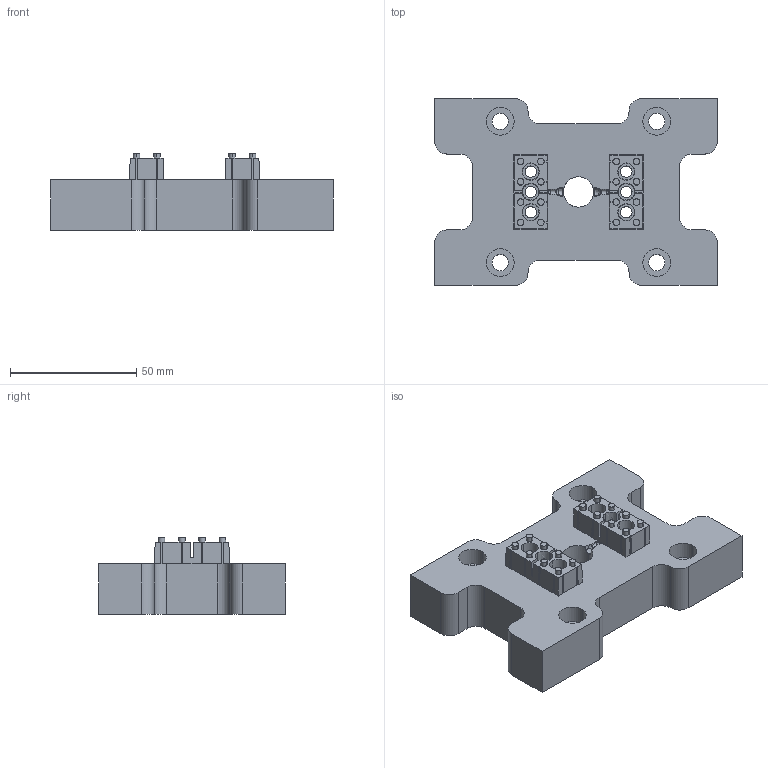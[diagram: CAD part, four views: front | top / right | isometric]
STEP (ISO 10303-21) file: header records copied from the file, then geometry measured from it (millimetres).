
FILE_DESCRIPTION(('CATIA V5 STEP Exchange'),'2;1');
FILE_NAME('C:\Users\jsmid\Desktop\Smidak_Tvarnik v1.stp','2025-05-09T01:33:37+00:00',('none'),('none'),'CATIA Version 5 Release 19 GA (IN-10)','CATIA V5 STEP AP203','none');
FILE_SCHEMA(('CONFIG_CONTROL_DESIGN'));
Length unit declared in the file: millimetre
Products named in the file (1): Part41
Bounding box: 112 x 74 x 30.35 mm (x, y, z)
Volume: 127491.5 mm3; surface area: 28819.4 mm2
Topology: 1 solids, 1 shells, 295 faces, 830 edges, 558 vertices
Faces by surface type: plane 178, cylinder 55, bspline 52, cone 4, revolution 4, extrusion 2
Entity records: 10623 total; most frequent: CARTESIAN_POINT 3709, ORIENTED_EDGE 1648, DIRECTION 982, EDGE_CURVE 824, VERTEX_POINT 558, VECTOR 518, LINE 516, EDGE_LOOP 344
